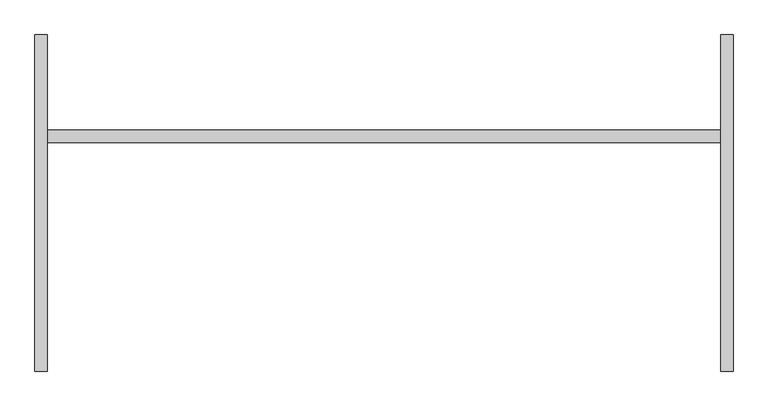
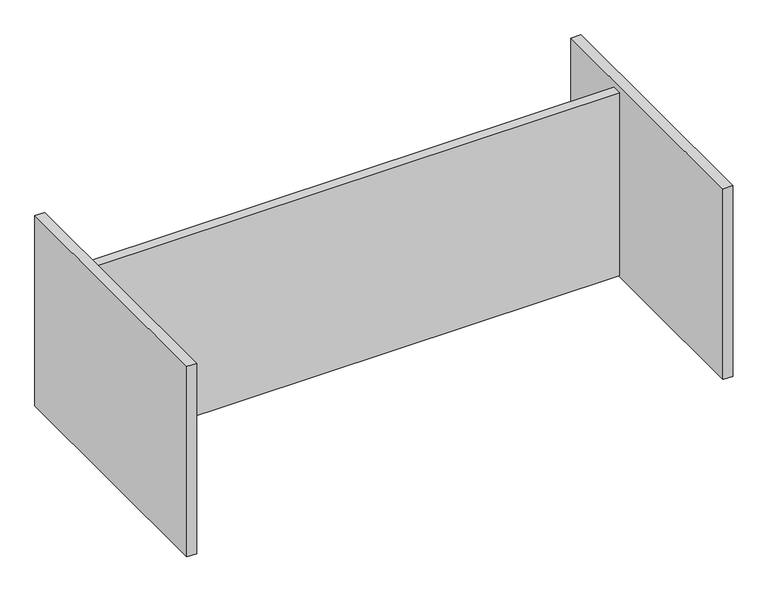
"""IFC4 building model written with IfcOpenShell, lengths in millimetres: proxy geometry, FOUNDATION^ADMIN 3_STRAIGHT-PARTS SOLID."""

from ifc_helpers import new_model, si_unit, frame, origin, place, context, project, spatial, polyline, outline, extrude, source, transform, mapped, element, save


def generic_models_96b29c8e(model_context):
    return source(origin(), model_context, "Body", "SweptSolid", [
        extrude(outline(polyline([(0.0, 736.6), (0.0, 698.5), (-2057.4, 698.5), (-2057.4, 736.6), (0.0, 736.6)])), frame((0.0, 0.0, -781.05), z_axis=(0.0, 0.0, 1.0), x_axis=(1.0, 0.0, 0.0)), (0.0, 0.0, 1.0), 755.65),
        extrude(outline(polyline([(-2057.4, 1028.7), (-2057.4, 0.0), (-2095.5, 0.0), (-2095.5, 1028.7), (-2057.4, 1028.7)])), frame((0.0, 0.0, -787.4), z_axis=(0.0, 0.0, 1.0), x_axis=(1.0, 0.0, 0.0)), (0.0, 0.0, 1.0), 787.4),
        extrude(outline(polyline([(0.0, 0.0), (0.0, 1028.7), (38.1, 1028.7), (38.1, 0.0), (0.0, 0.0)])), frame((0.0, 0.0, -787.4), z_axis=(0.0, 0.0, 1.0), x_axis=(1.0, 0.0, 0.0)), (0.0, 0.0, 1.0), 787.4),
    ])


if __name__ == "__main__":
    model = new_model("IFC4")
    model_context = context("Model", 3, world=origin())
    ifc_project = project(units=[si_unit("LENGTHUNIT", "METRE", prefix="MILLI")], contexts=[model_context])
    site = spatial("IfcSite", under=ifc_project)
    building = spatial("IfcBuilding", under=site)
    placement = place(None, origin())
    generic_models_shape = generic_models_96b29c8e(model_context)
    element("IfcBuildingElementProxy", 1, Name="FOUNDATION^ADMIN 3_STRAIGHT-PARTS SOLID", ObjectType="FOUNDATION^ADMIN 3_STRAIGHT-PARTS SOLID", at=placement, inside=building, context=model_context, shape_type="MappedRepresentation", body=[
        mapped(generic_models_shape, transform((0.0, 0.0, 0.0), x_axis=(1.0, 0.0, 0.0), y_axis=(0.0, 1.0, 0.0), z_axis=(0.0, 0.0, 1.0))),
    ])
    save(model, "model.ifc")
